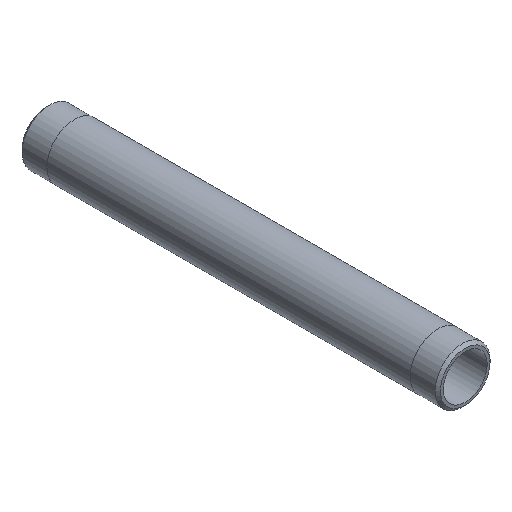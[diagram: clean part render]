
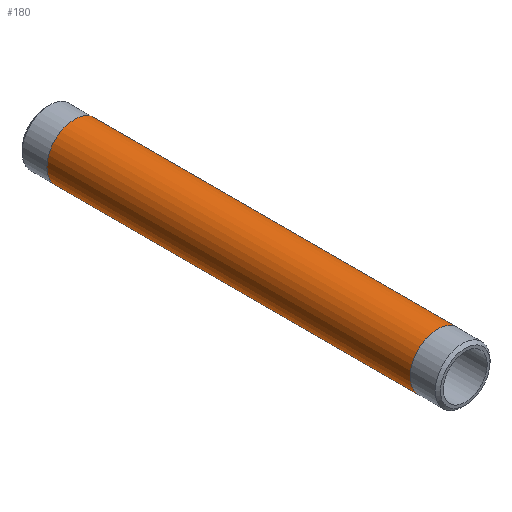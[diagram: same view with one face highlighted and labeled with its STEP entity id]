
A CAD part, isometric view. The second image highlights one B-rep face of the part: STEP entity #180.
In plain terms, the highlighted cylindrical face has radius 16.701 mm (diameter 33.401 mm), a full revolution.
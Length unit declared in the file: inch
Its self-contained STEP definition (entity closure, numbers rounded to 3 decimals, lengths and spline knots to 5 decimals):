
#25=CYLINDRICAL_SURFACE('',#220,0.6575);
#34=FACE_OUTER_BOUND('',#47,.T.);
#47=EDGE_LOOP('',(#155,#156,#157,#158,#159,#160));
#55=LINE('',#338,#61);
#61=VECTOR('',#283,0.6575);
#77=CIRCLE('',#218,0.6575);
#78=CIRCLE('',#219,0.6575);
#79=CIRCLE('',#221,0.6575);
#80=CIRCLE('',#222,0.6575);
#95=VERTEX_POINT('',#329);
#96=VERTEX_POINT('',#330);
#97=VERTEX_POINT('',#334);
#98=VERTEX_POINT('',#335);
#117=EDGE_CURVE('',#95,#96,#77,.T.);
#118=EDGE_CURVE('',#96,#95,#78,.T.);
#119=EDGE_CURVE('',#97,#98,#79,.T.);
#120=EDGE_CURVE('',#98,#97,#80,.T.);
#121=EDGE_CURVE('',#98,#96,#55,.T.);
#155=ORIENTED_EDGE('',*,*,#119,.F.);
#156=ORIENTED_EDGE('',*,*,#120,.F.);
#157=ORIENTED_EDGE('',*,*,#121,.T.);
#158=ORIENTED_EDGE('',*,*,#118,.T.);
#159=ORIENTED_EDGE('',*,*,#117,.T.);
#160=ORIENTED_EDGE('',*,*,#121,.F.);
#180=ADVANCED_FACE('',(#34),#25,.T.);
#218=AXIS2_PLACEMENT_3D('',#331,#273,#274);
#219=AXIS2_PLACEMENT_3D('',#332,#275,#276);
#220=AXIS2_PLACEMENT_3D('',#333,#277,#278);
#221=AXIS2_PLACEMENT_3D('',#336,#279,#280);
#222=AXIS2_PLACEMENT_3D('',#337,#281,#282);
#273=DIRECTION('center_axis',(0.,-1.,0.));
#274=DIRECTION('ref_axis',(1.,0.,0.));
#275=DIRECTION('center_axis',(0.,-1.,0.));
#276=DIRECTION('ref_axis',(1.,0.,0.));
#277=DIRECTION('center_axis',(0.,-1.,0.));
#278=DIRECTION('ref_axis',(0.,0.,-1.));
#279=DIRECTION('center_axis',(0.,-1.,0.));
#280=DIRECTION('ref_axis',(1.,0.,0.));
#281=DIRECTION('center_axis',(0.,-1.,0.));
#282=DIRECTION('ref_axis',(1.,0.,0.));
#283=DIRECTION('',(0.,1.,0.));
#329=CARTESIAN_POINT('',(0.,9.339,-0.6575));
#330=CARTESIAN_POINT('',(0.,9.339,0.6575));
#331=CARTESIAN_POINT('Origin',(0.,9.339,0.));
#332=CARTESIAN_POINT('Origin',(0.,9.339,0.));
#333=CARTESIAN_POINT('Origin',(0.,5.,0.));
#334=CARTESIAN_POINT('',(0.,0.661,-0.6575));
#335=CARTESIAN_POINT('',(0.,0.661,0.6575));
#336=CARTESIAN_POINT('Origin',(0.,0.661,0.));
#337=CARTESIAN_POINT('Origin',(0.,0.661,0.));
#338=CARTESIAN_POINT('',(0.,5.,0.6575));
